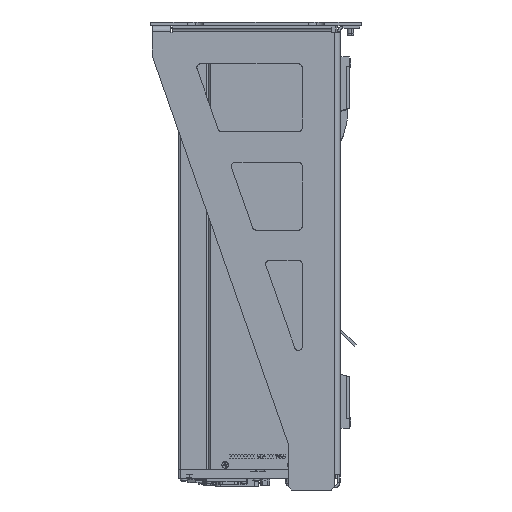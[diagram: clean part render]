
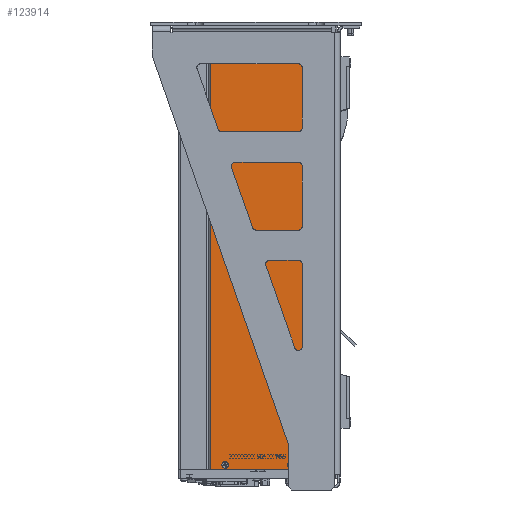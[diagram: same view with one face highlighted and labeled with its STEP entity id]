
A CAD part, left-side view. The second image highlights one B-rep face of the part: STEP entity #123914.
In plain terms, the highlighted planar face has unit normal (-1, 0, 0).
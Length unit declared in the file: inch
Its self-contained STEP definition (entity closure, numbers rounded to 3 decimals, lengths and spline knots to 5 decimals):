
#803 = DIRECTION ( 'NONE',  ( 0., 0., 1. ) ) ;
#804 = DIRECTION ( 'NONE',  ( -1., 0., 0. ) ) ;
#805 = CARTESIAN_POINT ( 'NONE',  ( -13.6, 3.71035, -14.5165 ) ) ;
#2067 = DIRECTION ( 'NONE',  ( 0., 1., 0. ) ) ;
#2068 = CARTESIAN_POINT ( 'NONE',  ( -13.6, 1.07018, -0.309 ) ) ;
#2467 = DIRECTION ( 'NONE',  ( 0., 1., 0. ) ) ;
#2470 = CARTESIAN_POINT ( 'NONE',  ( -13.6, 1.07018, -14.669 ) ) ;
#2534 = DIRECTION ( 'NONE',  ( 0., 0., 1. ) ) ;
#2536 = DIRECTION ( 'NONE',  ( -1., 0., 0. ) ) ;
#2538 = CARTESIAN_POINT ( 'NONE',  ( -13.6, 1.545, -14.5165 ) ) ;
#2806 = DIRECTION ( 'NONE',  ( 0., 0., 1. ) ) ;
#2807 = DIRECTION ( 'NONE',  ( -1., 0., 0. ) ) ;
#2808 = CARTESIAN_POINT ( 'NONE',  ( -13.6, 3.71035, -14.5165 ) ) ;
#4371 = CARTESIAN_POINT ( 'NONE',  ( -13.6, 1.07018, -14.6665 ) ) ;
#4378 = DIRECTION ( 'NONE',  ( 0., 0., 1. ) ) ;
#8567 = EDGE_LOOP ( 'NONE', ( #30506, #30509, #30510, #30511 ) ) ;
#8617 = EDGE_LOOP ( 'NONE', ( #30501, #30502 ) ) ;
#8642 = EDGE_LOOP ( 'NONE', ( #30504, #30505 ) ) ;
#18788 = CARTESIAN_POINT ( 'NONE',  ( -13.6, 4.18518, -0.309 ) ) ;
#18817 = CARTESIAN_POINT ( 'NONE',  ( -13.6, 1.545, -14.40514 ) ) ;
#18845 = CARTESIAN_POINT ( 'NONE',  ( -13.6, 4.18518, -14.669 ) ) ;
#18857 = CARTESIAN_POINT ( 'NONE',  ( -13.6, 1.545, -14.62786 ) ) ;
#18880 = CARTESIAN_POINT ( 'NONE',  ( -13.6, 3.71035, -14.40514 ) ) ;
#18882 = CARTESIAN_POINT ( 'NONE',  ( -13.6, 1.07018, -14.669 ) ) ;
#18884 = CARTESIAN_POINT ( 'NONE',  ( -13.6, 1.07018, -0.309 ) ) ;
#18891 = CARTESIAN_POINT ( 'NONE',  ( -13.6, 3.71035, -14.62786 ) ) ;
#19770 = AXIS2_PLACEMENT_3D ( 'NONE', #97641, #97643, #97646 ) ;
#20692 = AXIS2_PLACEMENT_3D ( 'NONE', #32344, #32345, #32346 ) ;
#22353 = AXIS2_PLACEMENT_3D ( 'NONE', #805, #804, #803 ) ;
#22443 = AXIS2_PLACEMENT_3D ( 'NONE', #2538, #2536, #2534 ) ;
#22453 = AXIS2_PLACEMENT_3D ( 'NONE', #2808, #2807, #2806 ) ;
#30501 = ORIENTED_EDGE ( 'NONE', *, *, #88194, .F. ) ;
#30502 = ORIENTED_EDGE ( 'NONE', *, *, #115866, .F. ) ;
#30504 = ORIENTED_EDGE ( 'NONE', *, *, #88428, .F. ) ;
#30505 = ORIENTED_EDGE ( 'NONE', *, *, #88172, .F. ) ;
#30506 = ORIENTED_EDGE ( 'NONE', *, *, #88279, .T. ) ;
#30509 = ORIENTED_EDGE ( 'NONE', *, *, #115677, .F. ) ;
#30510 = ORIENTED_EDGE ( 'NONE', *, *, #88206, .F. ) ;
#30511 = ORIENTED_EDGE ( 'NONE', *, *, #88075, .T. ) ;
#32344 = CARTESIAN_POINT ( 'NONE',  ( -13.6, 1.545, -14.5165 ) ) ;
#32345 = DIRECTION ( 'NONE',  ( -1., 0., 0. ) ) ;
#32346 = DIRECTION ( 'NONE',  ( 0., 0., 1. ) ) ;
#38805 = LINE ( 'NONE', #91715, #38809 ) ;
#38809 = VECTOR ( 'NONE', #91713, 39.37008 ) ;
#39001 = CIRCLE ( 'NONE', #20692, 0.11136 ) ;
#74583 = VERTEX_POINT ( 'NONE', #18891 ) ;
#74585 = VERTEX_POINT ( 'NONE', #18884 ) ;
#74587 = VERTEX_POINT ( 'NONE', #18882 ) ;
#74591 = VERTEX_POINT ( 'NONE', #18857 ) ;
#74593 = VERTEX_POINT ( 'NONE', #18880 ) ;
#74597 = VERTEX_POINT ( 'NONE', #18845 ) ;
#74608 = VERTEX_POINT ( 'NONE', #18817 ) ;
#74619 = VERTEX_POINT ( 'NONE', #18788 ) ;
#88075 = EDGE_CURVE ( 'NONE', #74587, #74585, #117930, .T. ) ;
#88172 = EDGE_CURVE ( 'NONE', #74583, #74593, #120185, .T. ) ;
#88194 = EDGE_CURVE ( 'NONE', #74608, #74591, #120222, .T. ) ;
#88206 = EDGE_CURVE ( 'NONE', #74587, #74597, #120245, .T. ) ;
#88279 = EDGE_CURVE ( 'NONE', #74585, #74619, #120397, .T. ) ;
#88428 = EDGE_CURVE ( 'NONE', #74593, #74583, #120612, .T. ) ;
#91713 = DIRECTION ( 'NONE',  ( 0., 0., 1. ) ) ;
#91715 = CARTESIAN_POINT ( 'NONE',  ( -13.6, 4.18518, -14.6665 ) ) ;
#97603 = PLANE ( 'NONE',  #19770 ) ;
#97641 = CARTESIAN_POINT ( 'NONE',  ( -13.6, 1.07018, -14.6665 ) ) ;
#97643 = DIRECTION ( 'NONE',  ( 1., 0., 0. ) ) ;
#97646 = DIRECTION ( 'NONE',  ( 0., 0., 1. ) ) ;
#98416 = FACE_BOUND ( 'NONE', #8617, .T. ) ;
#98441 = FACE_OUTER_BOUND ( 'NONE', #8567, .T. ) ;
#98443 = FACE_BOUND ( 'NONE', #8642, .T. ) ;
#115677 = EDGE_CURVE ( 'NONE', #74597, #74619, #38805, .T. ) ;
#115866 = EDGE_CURVE ( 'NONE', #74591, #74608, #39001, .T. ) ;
#117930 = LINE ( 'NONE', #4371, #117954 ) ;
#117954 = VECTOR ( 'NONE', #4378, 39.37008 ) ;
#120185 = CIRCLE ( 'NONE', #22453, 0.11136 ) ;
#120222 = CIRCLE ( 'NONE', #22443, 0.11136 ) ;
#120245 = LINE ( 'NONE', #2470, #120249 ) ;
#120249 = VECTOR ( 'NONE', #2467, 39.37008 ) ;
#120397 = LINE ( 'NONE', #2068, #120400 ) ;
#120400 = VECTOR ( 'NONE', #2067, 39.37008 ) ;
#120612 = CIRCLE ( 'NONE', #22353, 0.11136 ) ;
#123914 = ADVANCED_FACE ( 'NONE', ( #98416, #98443, #98441 ), #97603, .F. ) ;
